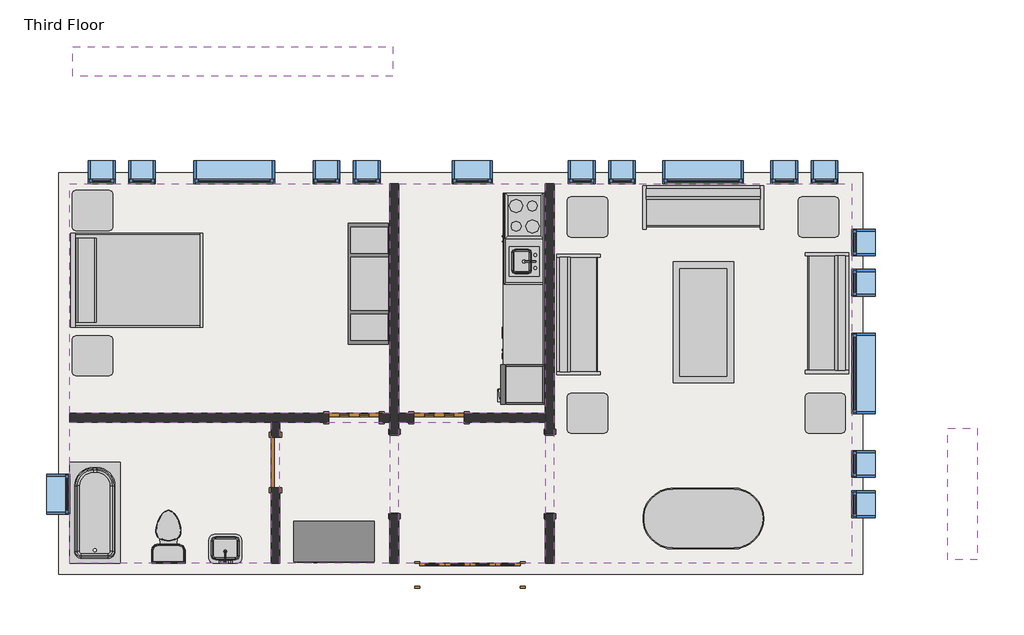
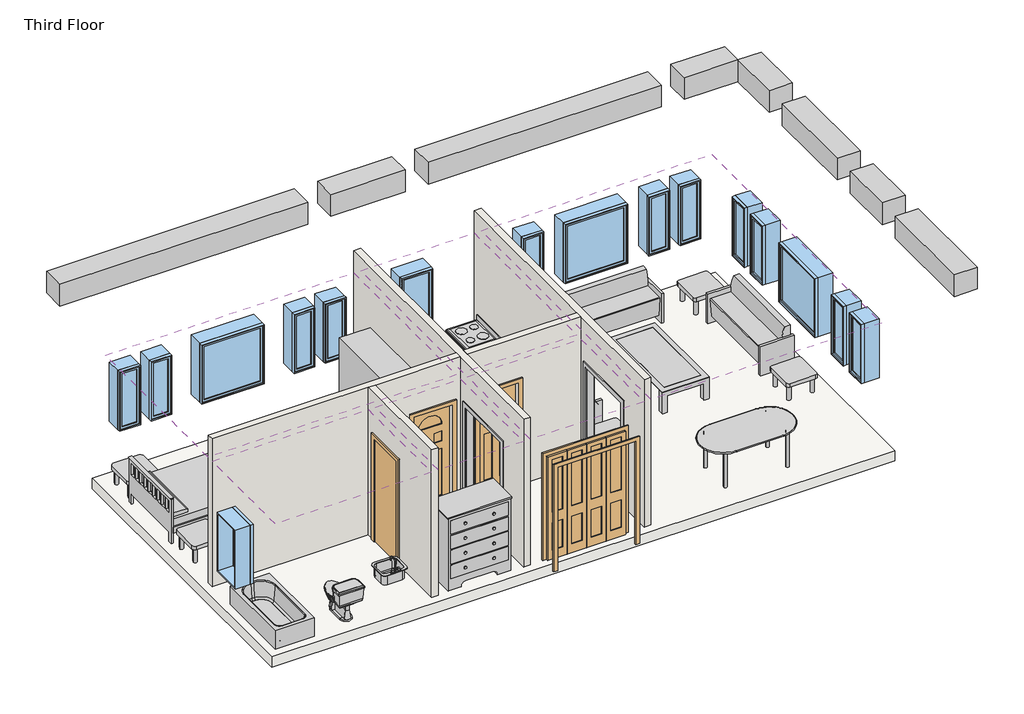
# One storey, incomplete: 17 windows, 15 furniture elements, 6 coverings, 6 proxies, 4 doors, 4 flow terminals, 4 walls, 2 beams, 1 slab.
"""IFC4 building model written with IfcOpenShell, lengths in millimetres."""

from ifc_helpers import new_model, si_unit, frame, origin, place, context, project, spatial, polyline, outline, extrude, faceted_brep, transform, mapped, element, save
from components import m_cook_top_4_unit2_0615_x_500mm_249f3515, m_dishwasher_610_x_610_x_875mm_54ecfc4c, m_kitchenette_medium_1372mm_e05c6bec, m_passage_opening_cased_1220_x_2134mm_87a8d9c2, m_refrigerator_600_x_660mm_a466bf94, m_bifold_4_panel_1525_x_2134mm_1ddae71f, m_single_decorative_2_0762_x_2134mm_0d0af7cb, m_single_decorative_2_0762_x_2134mm_2fe67c8e, m_single_flush_0762_x_2134mm_0d89e411, m_sink_kitchen_island_450_x_450mm_f969cf2d, m_sink_vanity_square_500_x_440mm_1e229b74, m_toilet_domestic_3d_m_toilet_domestic_3d_5cb52bd4, m_toilet_domestic_3d_m_toilet_domestic_3d_183bbd19, m_tub_rectangular_3d_m_tub_rectangular_3d_3a981ad5, m_bed_shaker_1422_x_1981mm_double_096e7f55, m_counter_top_w_sink_hole_600mm_depth_1fb56bb9, m_dresser_1220_x_1525_x_0610mm_18e1f140, m_entertainment_center_1830_x_1830_x_0610mm_f77a9b93, m_sofa_1830mm_58d08fc1, m_table_coffee_0915_x_1830_x_0457mm_134cd960, m_table_dining_oval_0915_x_1830mm_a7cfbe21, m_table_end_cb6ea12e, m_fixed_0406_x_1220mm_57fee329, m_fixed_0406_x_1220mm_85c28f40, m_fixed_0610_x_1220mm_2c28ef1d, m_fixed_1220_x_1220mm_e08ff7af

model = new_model("IFC4")

# Units and contexts
model_context = context("Model", 3, world=origin())
ifc_project = project(units=[si_unit("LENGTHUNIT", "METRE", prefix="MILLI")], contexts=[model_context])

# Site, building, storey
site = spatial("IfcSite", under=ifc_project)
building = spatial("IfcBuilding", under=site)
storey = spatial("IfcBuildingStorey", under=building, Name="Third Floor", Elevation=6096.0)

# Beams
placement = place(None, origin())
element("IfcBeam", 1, ObjectType="M_Concrete-Rectangular Beam : 450 x 450", at=placement, inside=storey, context=model_context, shape_type="SweptSolid", body=[
    extrude(outline(polyline([(-1643.3416203, 4481.1188386), (-1643.3416203, 4031.1188386), (-2693.3416203, 4031.1188386), (-2693.3416203, 4481.1188386), (-1643.3416203, 4481.1188386)])), frame((0.0, 0.0, 8694.0), z_axis=(0.0, 0.0, 1.0), x_axis=(1.0, 0.0, 0.0)), (0.0, 0.0, 1.0), 450.0),
    extrude(outline(polyline([(-14885.3416203, 4031.1188386), (-14885.3416203, 4481.1188386), (-10043.3416203, 4481.1188386), (-10043.3416203, 4031.1188386), (-14885.3416203, 4031.1188386)])), frame((0.0, 0.0, 8694.0), z_axis=(0.0, 0.0, 1.0), x_axis=(1.0, 0.0, 0.0)), (0.0, 0.0, 1.0), 450.0),
    extrude(outline(polyline([(-3143.3416203, 4481.1188386), (-3143.3416203, 4031.1188386), (-7693.3416203, 4031.1188386), (-7693.3416203, 4481.1188386), (-3143.3416203, 4481.1188386)])), frame((0.0, 0.0, 8694.0), z_axis=(0.0, 0.0, 1.0), x_axis=(1.0, 0.0, 0.0)), (0.0, 0.0, 1.0), 450.0),
    extrude(outline(polyline([(-8143.3416203, 4481.1188386), (-8143.3416203, 4031.1188386), (-9593.3416203, 4031.1188386), (-9593.3416203, 4481.1188386), (-8143.3416203, 4481.1188386)])), frame((0.0, 0.0, 8694.0), z_axis=(0.0, 0.0, 1.0), x_axis=(1.0, 0.0, 0.0)), (0.0, 0.0, 1.0), 450.0),
])
element("IfcBeam", 2, ObjectType="M_Concrete-Rectangular Beam : 450 x 450", at=placement, inside=storey, context=model_context, shape_type="SweptSolid", body=[
    extrude(outline(polyline([(-1193.3416203, -3289.8811614), (-1643.3416203, -3289.8811614), (-1643.3416203, -1295.3811614), (-1193.3416203, -1295.3811614), (-1193.3416203, -3289.8811614)])), frame((0.0, 0.0, 8694.0), z_axis=(0.0, 0.0, 1.0), x_axis=(1.0, 0.0, 0.0)), (0.0, 0.0, 1.0), 450.0),
    extrude(outline(polyline([(-1643.3416203, 4031.1188386), (-1193.3416203, 4031.1188386), (-1193.3416203, 2981.1188386), (-1643.3416203, 2981.1188386), (-1643.3416203, 4031.1188386)])), frame((0.0, 0.0, 8694.0), z_axis=(0.0, 0.0, 1.0), x_axis=(1.0, 0.0, 0.0)), (0.0, 0.0, 1.0), 450.0),
    extrude(outline(polyline([(-1643.3416203, 2531.1188386), (-1193.3416203, 2531.1188386), (-1193.3416203, 681.1188386), (-1643.3416203, 681.1188386), (-1643.3416203, 2531.1188386)])), frame((0.0, 0.0, 8694.0), z_axis=(0.0, 0.0, 1.0), x_axis=(1.0, 0.0, 0.0)), (0.0, 0.0, 1.0), 450.0),
    extrude(outline(polyline([(-1643.3416203, 231.1188386), (-1193.3416203, 231.1188386), (-1193.3416203, -845.3811614), (-1643.3416203, -845.3811614), (-1643.3416203, 231.1188386)])), frame((0.0, 0.0, 8694.0), z_axis=(0.0, 0.0, 1.0), x_axis=(1.0, 0.0, 0.0)), (0.0, 0.0, 1.0), 450.0),
])

# Proxies
m_cook_top_4_unit2_0615_x_500mm_shape = m_cook_top_4_unit2_0615_x_500mm_249f3515(model_context)
element("IfcBuildingElementProxy", 3, Name="M_Cook Top-4 Unit2 : 0615 x 500mm", ObjectType="M_Cook Top-4 Unit2 : 0615 x 500mm", at=placement, inside=storey, context=model_context, shape_type="MappedRepresentation", body=[
    mapped(m_cook_top_4_unit2_0615_x_500mm_shape, transform((-8054.9916203, 1914.054661, 6096.0), x_axis=(0.0, -1.0, 0.0), y_axis=(1.0, 0.0, 0.0), z_axis=(0.0, 0.0, 1.0))),
])
m_dishwasher_610_x_610_x_875mm_shape = m_dishwasher_610_x_610_x_875mm_54ecfc4c(model_context)
element("IfcBuildingElementProxy", 4, Name="M_Dishwasher : 610 x 610 x 875mm", ObjectType="M_Dishwasher : 610 x 610 x 875mm", at=placement, inside=storey, context=model_context, shape_type="MappedRepresentation", body=[
    mapped(m_dishwasher_610_x_610_x_875mm_shape, transform((-8321.6411851, 353.5721295, 6096.0), x_axis=(0.0, -1.0, 0.0), y_axis=(1.0, 0.0, 0.0), z_axis=(0.0, 0.0, 1.0))),
])
m_kitchenette_medium_1372mm_shape = m_kitchenette_medium_1372mm_e05c6bec(model_context)
element("IfcBuildingElementProxy", 5, Name="M_Kitchenette - Medium : 1372mm", ObjectType="M_Kitchenette - Medium : 1372mm", at=placement, inside=storey, context=model_context, shape_type="MappedRepresentation", body=[
    mapped(m_kitchenette_medium_1372mm_shape, transform((-7749.9916203, 1589.7923659, 6096.0), x_axis=(0.0, -1.0, 0.0), y_axis=(1.0, 0.0, 0.0), z_axis=(0.0, 0.0, 1.0))),
])
m_passage_opening_cased_1220_x_2134mm_shape = m_passage_opening_cased_1220_x_2134mm_87a8d9c2(model_context)
element("IfcBuildingElementProxy", 6, Name="M_Passage Opening-Cased : 1220 x 2134mm", ObjectType="M_Passage Opening-Cased : 1220 x 2134mm", at=placement, inside=storey, context=model_context, shape_type="MappedRepresentation", body=[
    mapped(m_passage_opening_cased_1220_x_2134mm_shape, transform((-7665.3416203, -1982.6925047, 6096.0), x_axis=(0.0, 1.0, 0.0), y_axis=(-1.0, 0.0, 0.0), z_axis=(0.0, 0.0, 1.0))),
])
element("IfcBuildingElementProxy", 7, Name="M_Passage Opening-Cased : 1220 x 2134mm", ObjectType="M_Passage Opening-Cased : 1220 x 2134mm", at=placement, inside=storey, context=model_context, shape_type="MappedRepresentation", body=[
    mapped(m_passage_opening_cased_1220_x_2134mm_shape, transform((-10019.0916203, -1999.0698181, 6096.0), x_axis=(0.0, -1.0, 0.0), y_axis=(1.0, 0.0, 0.0), z_axis=(0.0, 0.0, 1.0))),
])
m_refrigerator_600_x_660mm_shape = m_refrigerator_600_x_660mm_a466bf94(model_context)
element("IfcBuildingElementProxy", 8, Name="M_Refrigerator : 600 x 660mm", ObjectType="M_Refrigerator : 600 x 660mm", at=placement, inside=storey, context=model_context, shape_type="MappedRepresentation", body=[
    mapped(m_refrigerator_600_x_660mm_shape, transform((-8046.2067105, -687.7464817, 6096.0), x_axis=(0.0, -1.0, 0.0), y_axis=(1.0, 0.0, 0.0), z_axis=(0.0, 0.0, 1.0))),
])

# Coverings
element("IfcCovering", 9, ObjectType="Plain", at=placement, inside=storey, context=model_context, shape_type="SweptSolid", body=[
    extrude(outline(polyline([(-14935.3416203, 2406.1188386), (-10086.8416203, 2406.1188386), (-10086.8416203, -1070.3811614), (-14935.3416203, -1070.3811614), (-14935.3416203, 2406.1188386)])), frame((0.0, 0.0, 8686.0), z_axis=(0.0, 0.0, 1.0), x_axis=(1.0, 0.0, 0.0)), (0.0, 0.0, 1.0), 57.0),
])
element("IfcCovering", 10, ObjectType="Plain", at=placement, inside=storey, context=model_context, shape_type="SweptSolid", body=[
    extrude(outline(polyline([(-9951.3416203, -1070.3811614), (-9951.3416203, 2406.1188386), (-7733.0916203, 2406.1188386), (-7733.0916203, -1070.3811614), (-9951.3416203, -1070.3811614)])), frame((0.0, 0.0, 8686.0), z_axis=(0.0, 0.0, 1.0), x_axis=(1.0, 0.0, 0.0)), (0.0, 0.0, 1.0), 57.0),
])
element("IfcCovering", 11, ObjectType="Plain", at=placement, inside=storey, context=model_context, shape_type="SweptSolid", body=[
    extrude(outline(polyline([(-7597.5916203, -3339.8811614), (-7597.5916203, 2406.1188386), (-3093.3416203, 2406.1188386), (-3093.3416203, -3339.8811614), (-7597.5916203, -3339.8811614)])), frame((0.0, 0.0, 8686.0), z_axis=(0.0, 0.0, 1.0), x_axis=(1.0, 0.0, 0.0)), (0.0, 0.0, 1.0), 57.0),
])
element("IfcCovering", 12, ObjectType="Plain", at=placement, inside=storey, context=model_context, shape_type="SweptSolid", body=[
    extrude(outline(polyline([(-7733.0916203, -3339.8811614), (-9951.3416203, -3339.8811614), (-9951.3416203, -1205.8811614), (-7733.0916203, -1205.8811614), (-7733.0916203, -3339.8811614)])), frame((0.0, 0.0, 8686.0), z_axis=(0.0, 0.0, 1.0), x_axis=(1.0, 0.0, 0.0)), (0.0, 0.0, 1.0), 57.0),
])
element("IfcCovering", 13, ObjectType="Plain", at=placement, inside=storey, context=model_context, shape_type="SweptSolid", body=[
    extrude(outline(polyline([(-11887.3416203, -1205.8811614), (-11887.3416203, -3339.8811614), (-14935.3416203, -3339.8811614), (-14935.3416203, -1205.8811614), (-11887.3416203, -1205.8811614)])), frame((0.0, 0.0, 8686.0), z_axis=(0.0, 0.0, 1.0), x_axis=(1.0, 0.0, 0.0)), (0.0, 0.0, 1.0), 57.0),
])
element("IfcCovering", 14, ObjectType="Plain", at=placement, inside=storey, context=model_context, shape_type="SweptSolid", body=[
    extrude(outline(polyline([(-10086.8416203, -3339.8811614), (-11751.8416203, -3339.8811614), (-11751.8416203, -1205.8811614), (-10086.8416203, -1205.8811614), (-10086.8416203, -3339.8811614)])), frame((0.0, 0.0, 8686.0), z_axis=(0.0, 0.0, 1.0), x_axis=(1.0, 0.0, 0.0)), (0.0, 0.0, 1.0), 57.0),
])

# Doors
m_bifold_4_panel_1525_x_2134mm_shape = m_bifold_4_panel_1525_x_2134mm_1ddae71f(model_context)
element("IfcDoor", 15, ObjectType="M_Bifold-4 Panel : 1525 x 2134mm", at=placement, inside=storey, context=model_context, shape_type="MappedRepresentation", body=[
    mapped(m_bifold_4_panel_1525_x_2134mm_shape, transform((-8876.0916203, -3514.8811614, 6096.0), x_axis=(1.0, 0.0, 0.0), y_axis=(0.0, 1.0, 0.0), z_axis=(0.0, 0.0, 1.0))),
])
m_single_decorative_2_0762_x_2134mm_shape = m_single_decorative_2_0762_x_2134mm_0d0af7cb(model_context)
element("IfcDoor", 16, ObjectType="M_Single-Decorative 2 : 0762 x 2134mm", at=placement, inside=storey, context=model_context, shape_type="MappedRepresentation", body=[
    mapped(m_single_decorative_2_0762_x_2134mm_shape, transform((-9342.3416203, -1138.1311614, 6096.0), x_axis=(-1.0, 0.0, 0.0), y_axis=(0.0, -1.0, 0.0), z_axis=(0.0, 0.0, 1.0))),
])
m_single_decorative_2_0762_x_2134mm_2_shape = m_single_decorative_2_0762_x_2134mm_2fe67c8e(model_context)
element("IfcDoor", 17, ObjectType="M_Single-Decorative 2 : 0762 x 2134mm", at=placement, inside=storey, context=model_context, shape_type="MappedRepresentation", body=[
    mapped(m_single_decorative_2_0762_x_2134mm_2_shape, transform((-10629.0916203, -1138.1311614, 6096.0), x_axis=(1.0, 0.0, 0.0), y_axis=(0.0, 1.0, 0.0), z_axis=(0.0, 0.0, 1.0))),
])
m_single_flush_0762_x_2134mm_shape = m_single_flush_0762_x_2134mm_0d89e411(model_context)
element("IfcDoor", 18, ObjectType="M_Single-Flush : 0762 x 2134mm", at=placement, inside=storey, context=model_context, shape_type="MappedRepresentation", body=[
    mapped(m_single_flush_0762_x_2134mm_shape, transform((-11819.5916203, -1815.8811614, 6096.0), x_axis=(0.0, 1.0, 0.0), y_axis=(-1.0, 0.0, 0.0), z_axis=(0.0, 0.0, 1.0))),
])

# Flow terminals
m_sink_kitchen_island_450_x_450mm_shape = m_sink_kitchen_island_450_x_450mm_f969cf2d(model_context)
element("IfcFlowTerminal", 19, ObjectType="M_Sink Kitchen-Island : 450 x 450mm", at=placement, inside=storey, context=model_context, shape_type="MappedRepresentation", body=[
    mapped(m_sink_kitchen_island_450_x_450mm_shape, transform((-8057.3370214, 1243.7439015, 6096.0), x_axis=(0.0, -1.0, 0.0), y_axis=(1.0, 0.0, 0.0), z_axis=(0.0, 0.0, 1.0))),
])
m_sink_vanity_square_500_x_440mm_shape = m_sink_vanity_square_500_x_440mm_1e229b74(model_context)
element("IfcFlowTerminal", 20, ObjectType="M_Sink Vanity-Square : 500 x 440mm", at=placement, inside=storey, context=model_context, shape_type="MappedRepresentation", body=[
    mapped(m_sink_vanity_square_500_x_440mm_shape, transform((-12563.5523798, -3158.1107603, 6096.0), x_axis=(-1.0, 0.0, 0.0), y_axis=(0.0, -1.0, 0.0), z_axis=(0.0, 0.0, 1.0))),
])
m_toilet_domestic_3d_m_toilet_domestic_3d_shape = m_toilet_domestic_3d_m_toilet_domestic_3d_5cb52bd4(model_context)
m_toilet_domestic_3d_m_toilet_domestic_3d_2_shape = m_toilet_domestic_3d_m_toilet_domestic_3d_183bbd19(model_context)
element("IfcFlowTerminal", 21, ObjectType="M_Toilet-Domestic-3D : M_Toilet-Domestic-3D", at=placement, inside=storey, context=model_context, shape_type="MappedRepresentation", body=[
    mapped(m_toilet_domestic_3d_m_toilet_domestic_3d_shape, transform((-13440.7376477, -2845.185134, 6096.0), x_axis=(-1.0000000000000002, 0.0, 0.0), y_axis=(0.0, -1.0000000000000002, 0.0), z_axis=(0.0, 0.0, 1.0))),
    mapped(m_toilet_domestic_3d_m_toilet_domestic_3d_2_shape, transform((-13440.7376477, -2845.185134, 6096.0), x_axis=(-1.0000000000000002, 0.0, 0.0), y_axis=(0.0, -1.0000000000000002, 0.0), z_axis=(0.0, 0.0, 1.0))),
])
m_tub_rectangular_3d_m_tub_rectangular_3d_shape = m_tub_rectangular_3d_m_tub_rectangular_3d_3a981ad5(model_context)
element("IfcFlowTerminal", 22, ObjectType="M_Tub-Rectangular-3D : M_Tub-Rectangular-3D", at=placement, inside=storey, context=model_context, shape_type="MappedRepresentation", body=[
    mapped(m_tub_rectangular_3d_m_tub_rectangular_3d_shape, transform((-15110.3416203, -2229.2781927, 6096.0), x_axis=(0.0, 1.0, 0.0), y_axis=(-1.0, 0.0, 0.0), z_axis=(0.0, 0.0, 1.0))),
])

# Furniture
m_bed_shaker_1422_x_1981mm_double_shape = m_bed_shaker_1422_x_1981mm_double_096e7f55(model_context)
element("IfcFurniture", 23, ObjectType="M_Bed-Shaker : 1422 x 1981mm - Double", at=placement, inside=storey, context=model_context, shape_type="MappedRepresentation", body=[
    mapped(m_bed_shaker_1422_x_1981mm_double_shape, transform((-14905.3416203, 963.9688386, 6096.0), x_axis=(0.0, 1.0000000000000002, 0.0), y_axis=(-1.0000000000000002, 0.0, 0.0), z_axis=(0.0, 0.0, 1.0))),
])
m_counter_top_w_sink_hole_600mm_depth_shape = m_counter_top_w_sink_hole_600mm_depth_1fb56bb9(model_context)
element("IfcFurniture", 24, ObjectType="M_Counter Top w Sink Hole : 600mm Depth", at=placement, inside=storey, context=model_context, shape_type="MappedRepresentation", body=[
    mapped(m_counter_top_w_sink_hole_600mm_depth_shape, transform((-7749.9916203, 1056.5923659, 6096.0), x_axis=(0.0, -1.0, 0.0), y_axis=(1.0, 0.0, 0.0), z_axis=(0.0, 0.0, 1.0))),
])
m_dresser_1220_x_1525_x_0610mm_shape = m_dresser_1220_x_1525_x_0610mm_18e1f140(model_context)
element("IfcFurniture", 25, ObjectType="M_Dresser : 1220 x 1525 x 0610mm", at=placement, inside=storey, context=model_context, shape_type="MappedRepresentation", body=[
    mapped(m_dresser_1220_x_1525_x_0610mm_shape, transform((-10667.6483605, -2647.7182073, 6096.0), x_axis=(1.0, 0.0, 0.0), y_axis=(0.0, 1.0, 0.0), z_axis=(0.0, 0.0, 1.0))),
])
m_entertainment_center_1830_x_1830_x_0610mm_shape = m_entertainment_center_1830_x_1830_x_0610mm_f77a9b93(model_context)
element("IfcFurniture", 26, ObjectType="M_Entertainment center : 1830 x 1830 x 0610mm", at=placement, inside=storey, context=model_context, shape_type="MappedRepresentation", body=[
    mapped(m_entertainment_center_1830_x_1830_x_0610mm_shape, transform((-10818.2416203, 891.1188386, 6096.0), x_axis=(0.0, 1.0, 0.0), y_axis=(-1.0, 0.0, 0.0), z_axis=(0.0, 0.0, 1.0))),
])
m_sofa_1830mm_shape = m_sofa_1830mm_58d08fc1(model_context)
element("IfcFurniture", 27, ObjectType="M_Sofa : 1830mm", at=placement, inside=storey, context=model_context, shape_type="MappedRepresentation", body=[
    mapped(m_sofa_1830mm_shape, transform((-5413.7121121, 1899.9647403, 6096.0), x_axis=(1.0, 0.0, 0.0), y_axis=(0.0, 1.0, 0.0), z_axis=(0.0, 0.0, 1.0))),
])
element("IfcFurniture", 28, ObjectType="M_Sofa : 1830mm", at=placement, inside=storey, context=model_context, shape_type="MappedRepresentation", body=[
    mapped(m_sofa_1830mm_shape, transform((-3617.1736471, 517.2688343, 6096.0), x_axis=(0.0, -1.0, 0.0), y_axis=(1.0, 0.0, 0.0), z_axis=(0.0, 0.0, 1.0))),
])
element("IfcFurniture", 29, ObjectType="M_Sofa : 1830mm", at=placement, inside=storey, context=model_context, shape_type="MappedRepresentation", body=[
    mapped(m_sofa_1830mm_shape, transform((-7088.437522, 355.7483468, 6096.0), x_axis=(0.0, 1.0, 0.0), y_axis=(-1.0, 0.0, 0.0), z_axis=(0.0, 0.0, 1.0))),
])
m_table_coffee_0915_x_1830_x_0457mm_shape = m_table_coffee_0915_x_1830_x_0457mm_134cd960(model_context)
element("IfcFurniture", 30, ObjectType="M_Table-Coffee : 0915 x 1830 x 0457mm", at=placement, inside=storey, context=model_context, shape_type="MappedRepresentation", body=[
    mapped(m_table_coffee_0915_x_1830_x_0457mm_shape, transform((-5248.1305425, 287.8530719, 6096.0), x_axis=(0.0, 1.0, 0.0), y_axis=(-1.0, 0.0, 0.0), z_axis=(0.0, 0.0, 1.0))),
])
m_table_dining_oval_0915_x_1830mm_shape = m_table_dining_oval_0915_x_1830mm_a7cfbe21(model_context)
element("IfcFurniture", 31, ObjectType="M_Table-Dining Oval : 0915 x 1830mm", at=placement, inside=storey, context=model_context, shape_type="MappedRepresentation", body=[
    mapped(m_table_dining_oval_0915_x_1830mm_shape, transform((-4941.5219482, -2305.2828007, 6096.0), x_axis=(1.0, 0.0, 0.0), y_axis=(0.0, 1.0, 0.0), z_axis=(0.0, 0.0, 1.0))),
])
m_table_end_shape = m_table_end_cb6ea12e(model_context)
element("IfcFurniture", 32, ObjectType="M_Table-End : 0610 x 0160mm altered height", at=placement, inside=storey, context=model_context, shape_type="MappedRepresentation", body=[
    mapped(m_table_end_shape, transform((-7407.0752506, 1748.7188386, 6096.0), x_axis=(1.0, 0.0, 0.0), y_axis=(0.0, 1.0, 0.0), z_axis=(0.0, 0.0, 1.0))),
])
element("IfcFurniture", 33, ObjectType="M_Table-End : 0610 x 0160mm altered height", at=placement, inside=storey, context=model_context, shape_type="MappedRepresentation", body=[
    mapped(m_table_end_shape, transform((-3907.0752506, 1748.7188386, 6096.0), x_axis=(1.0, 0.0, 0.0), y_axis=(0.0, 1.0, 0.0), z_axis=(0.0, 0.0, 1.0))),
])
element("IfcFurniture", 34, ObjectType="M_Table-End : 0610 x 0160mm altered height", at=placement, inside=storey, context=model_context, shape_type="MappedRepresentation", body=[
    mapped(m_table_end_shape, transform((-3807.0752506, -1222.7811614, 6096.0), x_axis=(1.0, 0.0, 0.0), y_axis=(0.0, 1.0, 0.0), z_axis=(0.0, 0.0, 1.0))),
])
element("IfcFurniture", 35, ObjectType="M_Table-End : 0610 x 0160mm altered height", at=placement, inside=storey, context=model_context, shape_type="MappedRepresentation", body=[
    mapped(m_table_end_shape, transform((-7407.0752506, -1222.7811614, 6096.0), x_axis=(1.0, 0.0, 0.0), y_axis=(0.0, 1.0, 0.0), z_axis=(0.0, 0.0, 1.0))),
])
element("IfcFurniture", 36, ObjectType="M_Table-End : 0610 x 0160mm altered height", at=placement, inside=storey, context=model_context, shape_type="MappedRepresentation", body=[
    mapped(m_table_end_shape, transform((-14899.0752506, -351.2811614, 6096.0), x_axis=(1.0, 0.0, 0.0), y_axis=(0.0, 1.0, 0.0), z_axis=(0.0, 0.0, 1.0))),
])
element("IfcFurniture", 37, ObjectType="M_Table-End : 0610 x 0160mm altered height", at=placement, inside=storey, context=model_context, shape_type="MappedRepresentation", body=[
    mapped(m_table_end_shape, transform((-14899.0752506, 1848.7188386, 6096.0), x_axis=(1.0, 0.0, 0.0), y_axis=(0.0, 1.0, 0.0), z_axis=(0.0, 0.0, 1.0))),
])

# Slab
element("IfcSlab", 38, ObjectType="160mm Concrete With 50mm Metal Deck", at=placement, inside=storey, context=model_context, shape_type="SweptSolid", body=[
    extrude(outline(polyline([(-2928.3416203, 2571.1188386), (-2928.3416203, -3504.8811614), (-15100.3416203, -3504.8811614), (-15100.3416203, 2571.1188386), (-2928.3416203, 2571.1188386)])), frame((0.0, 0.0, 5886.0), z_axis=(0.0, 0.0, 1.0), x_axis=(1.0, 0.0, 0.0)), (0.0, 0.0, 1.0), 210.0),
])

# Walls
element("IfcWall", 39, ObjectType="Interior - 135mm Partition (2-hr)", at=placement, inside=storey, context=model_context, shape_type="Brep", body=[
    faceted_brep([(-7733.0916203, 2406.1188386, 6096.0), (-7733.0916203, -1070.3811614, 6096.0), (-7733.0916203, -1205.8811614, 6096.0), (-7733.0916203, -1380.8811614, 6096.0), (-7733.0916203, -1380.8811614, 8230.0), (-7733.0916203, -2600.8811614, 8230.0), (-7733.0916203, -2600.8811614, 6096.0), (-7733.0916203, -3339.8811614, 6096.0), (-7733.0916203, -3339.8811614, 9144.0), (-7733.0916203, -1205.8811614, 9144.0), (-7733.0916203, -1070.3811614, 9144.0), (-7733.0916203, 2406.1188386, 9144.0), (-7597.5916203, -1380.8811614, 8230.0), (-7597.5916203, -1380.8811614, 6096.0), (-7597.5916203, 2406.1188386, 6096.0), (-7597.5916203, 2406.1188386, 9144.0), (-7597.5916203, -3339.8811614, 9144.0), (-7597.5916203, -3339.8811614, 6096.0), (-7597.5916203, -2600.8811614, 6096.0), (-7597.5916203, -2600.8811614, 8230.0)], [[[0, 1, 2, 3, 4, 5, 6, 7, 8, 9, 10, 11]], [[12, 13, 14, 15, 16, 17, 18, 19]], [[18, 17, 7, 6]], [[14, 13, 3, 2, 1, 0]], [[11, 10, 9, 8, 16, 15]], [[6, 5, 19, 18]], [[4, 3, 13, 12]], [[5, 4, 12, 19]], [[0, 11, 15, 14]], [[8, 7, 17, 16]]]),
])
element("IfcWall", 40, ObjectType="Interior - 135mm Partition (2-hr)", at=placement, inside=storey, context=model_context, shape_type="Brep", body=[
    faceted_brep([(-10086.8416203, -2600.8811614, 8230.0), (-10086.8416203, -2600.8811614, 6096.0), (-10086.8416203, -3339.8811614, 6096.0), (-10086.8416203, -3339.8811614, 9144.0), (-10086.8416203, -1205.8811614, 9144.0), (-10086.8416203, -1070.3811614, 9144.0), (-10086.8416203, 2406.1188386, 9144.0), (-10086.8416203, 2406.1188386, 6096.0), (-10086.8416203, -1070.3811614, 6096.0), (-10086.8416203, -1205.8811614, 6096.0), (-10086.8416203, -1380.8811614, 6096.0), (-10086.8416203, -1380.8811614, 8230.0), (-9951.3416203, -3339.8811614, 6096.0), (-9951.3416203, -2600.8811614, 6096.0), (-9951.3416203, -2600.8811614, 8230.0), (-9951.3416203, -1380.8811614, 8230.0), (-9951.3416203, -1380.8811614, 6096.0), (-9951.3416203, -1205.8811614, 6096.0), (-9951.3416203, -1070.3811614, 6096.0), (-9951.3416203, 2406.1188386, 6096.0), (-9951.3416203, 2406.1188386, 9144.0), (-9951.3416203, -1070.3811614, 9144.0), (-9951.3416203, -1205.8811614, 9144.0), (-9951.3416203, -3339.8811614, 9144.0)], [[[0, 1, 2, 3, 4, 5, 6, 7, 8, 9, 10, 11]], [[12, 13, 14, 15, 16, 17, 18, 19, 20, 21, 22, 23]], [[2, 1, 13, 12]], [[10, 9, 8, 7, 19, 18, 17, 16]], [[6, 5, 4, 3, 23, 22, 21, 20]], [[16, 15, 11, 10]], [[14, 13, 1, 0]], [[15, 14, 0, 11]], [[7, 6, 20, 19]], [[3, 2, 12, 23]]]),
])
element("IfcWall", 41, ObjectType="Interior - 135mm Partition (2-hr)", at=placement, inside=storey, context=model_context, shape_type="Brep", body=[
    faceted_brep([(-7733.0916203, -1205.8811614, 6096.0), (-7733.0916203, -1205.8811614, 9144.0), (-9951.3416203, -1205.8811614, 9144.0), (-9951.3416203, -1205.8811614, 6096.0), (-9723.3416203, -1205.8811614, 6096.0), (-9723.3416203, -1205.8811614, 8230.0), (-8961.3416203, -1205.8811614, 8230.0), (-8961.3416203, -1205.8811614, 6096.0), (-7733.0916203, -1070.3811614, 9144.0), (-7733.0916203, -1070.3811614, 6096.0), (-8961.3416203, -1070.3811614, 6096.0), (-8961.3416203, -1070.3811614, 8230.0), (-9723.3416203, -1070.3811614, 8230.0), (-9723.3416203, -1070.3811614, 6096.0), (-9951.3416203, -1070.3811614, 6096.0), (-9951.3416203, -1070.3811614, 9144.0)], [[[0, 1, 2, 3, 4, 5, 6, 7]], [[8, 9, 10, 11, 12, 13, 14, 15]], [[9, 0, 7, 10]], [[13, 4, 3, 14]], [[1, 8, 15, 2]], [[1, 0, 9, 8]], [[3, 2, 15, 14]], [[5, 4, 13, 12]], [[6, 5, 12, 11]], [[7, 6, 11, 10]]]),
    faceted_brep([(-10248.0916203, -1205.8811614, 8230.0), (-10248.0916203, -1205.8811614, 6096.0), (-10086.8416203, -1205.8811614, 6096.0), (-10086.8416203, -1205.8811614, 9144.0), (-11751.8416203, -1205.8811614, 9144.0), (-11887.3416203, -1205.8811614, 9144.0), (-14935.3416203, -1205.8811614, 9144.0), (-14935.3416203, -1205.8811614, 6096.0), (-11887.3416203, -1205.8811614, 6096.0), (-11751.8416203, -1205.8811614, 6096.0), (-11010.0916203, -1205.8811614, 6096.0), (-11010.0916203, -1205.8811614, 8230.0), (-10248.0916203, -1070.3811614, 6096.0), (-10248.0916203, -1070.3811614, 8230.0), (-11010.0916203, -1070.3811614, 8230.0), (-11010.0916203, -1070.3811614, 6096.0), (-14935.3416203, -1070.3811614, 6096.0), (-14935.3416203, -1070.3811614, 9144.0), (-10086.8416203, -1070.3811614, 9144.0), (-10086.8416203, -1070.3811614, 6096.0)], [[[0, 1, 2, 3, 4, 5, 6, 7, 8, 9, 10, 11]], [[12, 13, 14, 15, 16, 17, 18, 19]], [[1, 12, 19, 2]], [[15, 10, 9, 8, 7, 16]], [[17, 6, 5, 4, 3, 18]], [[3, 2, 19, 18]], [[13, 12, 1, 0]], [[14, 13, 0, 11]], [[15, 14, 11, 10]], [[7, 6, 17, 16]]]),
])
element("IfcWall", 42, ObjectType="Interior - 135mm Partition (2-hr)", at=placement, inside=storey, context=model_context, shape_type="SweptSolid", body=[
    extrude(outline(polyline([(-1205.8811614, 6096.0), (-1434.8811614, 6096.0), (-1434.8811614, 8230.0), (-2196.8811614, 8230.0), (-2196.8811614, 6096.0), (-3339.8811614, 6096.0), (-3339.8811614, 9144.0), (-1205.8811614, 9144.0), (-1205.8811614, 6096.0)])), frame((-11887.3416203, 0.0, 0.0), z_axis=(1.0, 0.0, 0.0), x_axis=(0.0, 1.0, 0.0)), (0.0, 0.0, 1.0), 135.5),
])

# Windows
m_fixed_0406_x_1220mm_shape = m_fixed_0406_x_1220mm_57fee329(model_context)
element("IfcWindow", 43, ObjectType="M_Fixed : 0406 x 1220mm", at=placement, inside=storey, context=model_context, shape_type="MappedRepresentation", body=[
    mapped(m_fixed_0406_x_1220mm_shape, transform((-14450.3416203, 2594.1188386, 6096.0), x_axis=(-1.0, 0.0, 0.0), y_axis=(0.0, -1.0, 0.0), z_axis=(0.0, 0.0, 1.0))),
])
element("IfcWindow", 44, ObjectType="M_Fixed : 0406 x 1220mm", at=placement, inside=storey, context=model_context, shape_type="MappedRepresentation", body=[
    mapped(m_fixed_0406_x_1220mm_shape, transform((-13840.3416203, 2594.1188386, 6096.0), x_axis=(-1.0, 0.0, 0.0), y_axis=(0.0, -1.0, 0.0), z_axis=(0.0, 0.0, 1.0))),
])
element("IfcWindow", 45, ObjectType="M_Fixed : 0406 x 1220mm", at=placement, inside=storey, context=model_context, shape_type="MappedRepresentation", body=[
    mapped(m_fixed_0406_x_1220mm_shape, transform((-7183.3416203, 2594.1188386, 6096.0), x_axis=(-1.0, 0.0, 0.0), y_axis=(0.0, -1.0, 0.0), z_axis=(0.0, 0.0, 1.0))),
])
element("IfcWindow", 46, ObjectType="M_Fixed : 0406 x 1220mm", at=placement, inside=storey, context=model_context, shape_type="MappedRepresentation", body=[
    mapped(m_fixed_0406_x_1220mm_shape, transform((-6573.3416203, 2594.1188386, 6096.0), x_axis=(-1.0, 0.0, 0.0), y_axis=(0.0, -1.0, 0.0), z_axis=(0.0, 0.0, 1.0))),
])
element("IfcWindow", 47, ObjectType="M_Fixed : 0406 x 1220mm", at=placement, inside=storey, context=model_context, shape_type="MappedRepresentation", body=[
    mapped(m_fixed_0406_x_1220mm_shape, transform((-2905.3416203, 1514.1188386, 6096.0), x_axis=(0.0, 1.0, 0.0), y_axis=(-1.0, 0.0, 0.0), z_axis=(0.0, 0.0, 1.0))),
])
element("IfcWindow", 48, ObjectType="M_Fixed : 0406 x 1220mm", at=placement, inside=storey, context=model_context, shape_type="MappedRepresentation", body=[
    mapped(m_fixed_0406_x_1220mm_shape, transform((-2905.3416203, 904.1188386, 6096.0), x_axis=(0.0, 1.0, 0.0), y_axis=(-1.0, 0.0, 0.0), z_axis=(0.0, 0.0, 1.0))),
])
m_fixed_0406_x_1220mm_2_shape = m_fixed_0406_x_1220mm_85c28f40(model_context)
element("IfcWindow", 49, ObjectType="M_Fixed : 0406 x 1220mm", at=placement, inside=storey, context=model_context, shape_type="MappedRepresentation", body=[
    mapped(m_fixed_0406_x_1220mm_2_shape, transform((-10436.3416203, 2594.1188386, 6096.0), x_axis=(1.0, 0.0, 0.0), y_axis=(0.0, 1.0, 0.0), z_axis=(0.0, 0.0, 1.0))),
])
element("IfcWindow", 50, ObjectType="M_Fixed : 0406 x 1220mm", at=placement, inside=storey, context=model_context, shape_type="MappedRepresentation", body=[
    mapped(m_fixed_0406_x_1220mm_2_shape, transform((-11046.3416203, 2594.1188386, 6096.0), x_axis=(1.0, 0.0, 0.0), y_axis=(0.0, 1.0, 0.0), z_axis=(0.0, 0.0, 1.0))),
])
element("IfcWindow", 51, ObjectType="M_Fixed : 0406 x 1220mm", at=placement, inside=storey, context=model_context, shape_type="MappedRepresentation", body=[
    mapped(m_fixed_0406_x_1220mm_2_shape, transform((-3507.5916203, 2594.1188386, 6096.0), x_axis=(1.0, 0.0, 0.0), y_axis=(0.0, 1.0, 0.0), z_axis=(0.0, 0.0, 1.0))),
])
element("IfcWindow", 52, ObjectType="M_Fixed : 0406 x 1220mm", at=placement, inside=storey, context=model_context, shape_type="MappedRepresentation", body=[
    mapped(m_fixed_0406_x_1220mm_2_shape, transform((-4117.5916203, 2594.1188386, 6096.0), x_axis=(1.0, 0.0, 0.0), y_axis=(0.0, 1.0, 0.0), z_axis=(0.0, 0.0, 1.0))),
])
element("IfcWindow", 53, ObjectType="M_Fixed : 0406 x 1220mm", at=placement, inside=storey, context=model_context, shape_type="MappedRepresentation", body=[
    mapped(m_fixed_0406_x_1220mm_2_shape, transform((-2905.3416203, -2447.8811614, 6096.0), x_axis=(0.0, -1.0, 0.0), y_axis=(1.0, 0.0, 0.0), z_axis=(0.0, 0.0, 1.0))),
])
element("IfcWindow", 54, ObjectType="M_Fixed : 0406 x 1220mm", at=placement, inside=storey, context=model_context, shape_type="MappedRepresentation", body=[
    mapped(m_fixed_0406_x_1220mm_2_shape, transform((-2905.3416203, -1837.8811614, 6096.0), x_axis=(0.0, -1.0, 0.0), y_axis=(1.0, 0.0, 0.0), z_axis=(0.0, 0.0, 1.0))),
])
m_fixed_0610_x_1220mm_shape = m_fixed_0610_x_1220mm_2c28ef1d(model_context)
element("IfcWindow", 55, ObjectType="M_Fixed : 0610 x 1220mm", at=placement, inside=storey, context=model_context, shape_type="MappedRepresentation", body=[
    mapped(m_fixed_0610_x_1220mm_shape, transform((-8842.1916203, 2594.1188386, 6096.0), x_axis=(-1.0, 0.0, 0.0), y_axis=(0.0, -1.0, 0.0), z_axis=(0.0, 0.0, 1.0))),
])
element("IfcWindow", 56, ObjectType="M_Fixed : 0610 x 1220mm", at=placement, inside=storey, context=model_context, shape_type="MappedRepresentation", body=[
    mapped(m_fixed_0610_x_1220mm_shape, transform((-15123.3416203, -2294.8811614, 6096.0), x_axis=(0.0, -1.0, 0.0), y_axis=(1.0, 0.0, 0.0), z_axis=(0.0, 0.0, 1.0))),
])
m_fixed_1220_x_1220mm_shape = m_fixed_1220_x_1220mm_e08ff7af(model_context)
element("IfcWindow", 57, ObjectType="M_Fixed : 1220 x 1220mm", at=placement, inside=storey, context=model_context, shape_type="MappedRepresentation", body=[
    mapped(m_fixed_1220_x_1220mm_shape, transform((-12443.3416203, 2594.1188386, 6096.0), x_axis=(-1.0, 0.0, 0.0), y_axis=(0.0, -1.0, 0.0), z_axis=(0.0, 0.0, 1.0))),
])
element("IfcWindow", 58, ObjectType="M_Fixed : 1220 x 1220mm", at=placement, inside=storey, context=model_context, shape_type="MappedRepresentation", body=[
    mapped(m_fixed_1220_x_1220mm_shape, transform((-5345.4666203, 2594.1188386, 6096.0), x_axis=(-1.0, 0.0, 0.0), y_axis=(0.0, -1.0, 0.0), z_axis=(0.0, 0.0, 1.0))),
])
element("IfcWindow", 59, ObjectType="M_Fixed : 1220 x 1220mm", at=placement, inside=storey, context=model_context, shape_type="MappedRepresentation", body=[
    mapped(m_fixed_1220_x_1220mm_shape, transform((-2905.3416203, -466.8811614, 6096.0), x_axis=(0.0, 1.0, 0.0), y_axis=(-1.0, 0.0, 0.0), z_axis=(0.0, 0.0, 1.0))),
])

save(model, "model.ifc")
